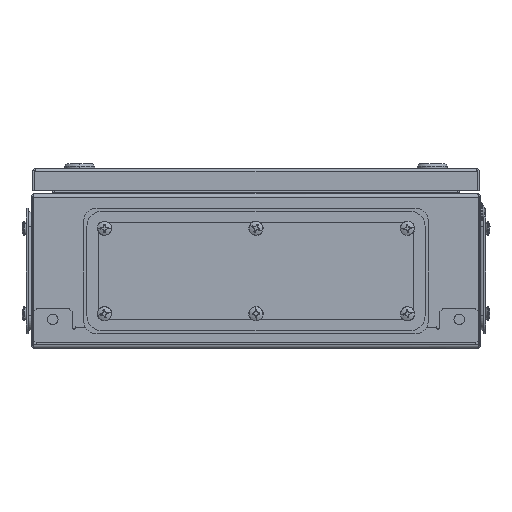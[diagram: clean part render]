
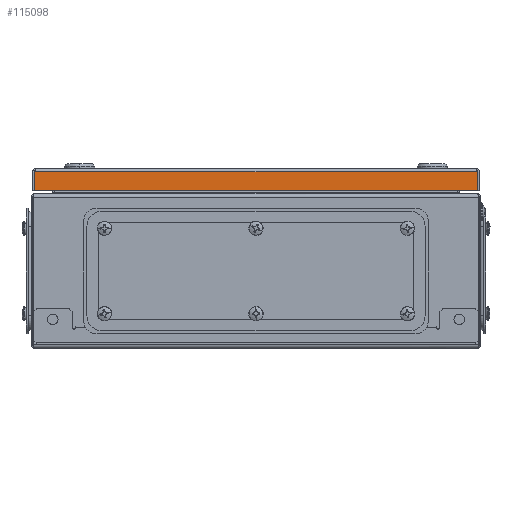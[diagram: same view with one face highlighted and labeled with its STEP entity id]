
A CAD part, left-side view. The second image highlights one B-rep face of the part: STEP entity #115098.
In plain terms, the highlighted planar face has unit normal (-1, 0, 0).
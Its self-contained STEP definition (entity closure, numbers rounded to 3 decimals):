
#1005 = ORIENTED_EDGE ( 'NONE', *, *, #26388, .T. ) ;
#4152 = CIRCLE ( 'NONE', #55912, 0.5 ) ;
#4189 = CARTESIAN_POINT ( 'NONE',  ( -149., -147.659, 105.5 ) ) ;
#10565 = AXIS2_PLACEMENT_3D ( 'NONE', #125641, #114102, #92500 ) ;
#13580 = DIRECTION ( 'NONE',  ( 0., 0., 1. ) ) ;
#14978 = DIRECTION ( 'NONE',  ( 0., 0., 1. ) ) ;
#17529 = VERTEX_POINT ( 'NONE', #57368 ) ;
#20606 = DIRECTION ( 'NONE',  ( -1., 0., 0. ) ) ;
#22097 = DIRECTION ( 'NONE',  ( 0., 0., 1. ) ) ;
#23289 = LINE ( 'NONE', #143315, #50126 ) ;
#26388 = EDGE_CURVE ( 'NONE', #105298, #103895, #65844, .T. ) ;
#31576 = PLANE ( 'NONE',  #10565 ) ;
#38104 = LINE ( 'NONE', #120638, #126197 ) ;
#38670 = EDGE_CURVE ( 'NONE', #17529, #95988, #38104, .T. ) ;
#44101 = CARTESIAN_POINT ( 'NONE',  ( -149., -147.159, 105.5 ) ) ;
#45402 = FACE_OUTER_BOUND ( 'NONE', #116367, .T. ) ;
#47474 = LINE ( 'NONE', #119213, #120043 ) ;
#50126 = VECTOR ( 'NONE', #93545, 1000. ) ;
#55912 = AXIS2_PLACEMENT_3D ( 'NONE', #68441, #20606, #22097 ) ;
#57254 = DIRECTION ( 'NONE',  ( 0., 0., 1. ) ) ;
#57368 = CARTESIAN_POINT ( 'NONE',  ( -149., 147.659, 105.5 ) ) ;
#59443 = EDGE_CURVE ( 'NONE', #105298, #141226, #139418, .T. ) ;
#65844 = CIRCLE ( 'NONE', #152005, 0.5 ) ;
#68441 = CARTESIAN_POINT ( 'NONE',  ( -149., 147.159, 105.5 ) ) ;
#73334 = CARTESIAN_POINT ( 'NONE',  ( -149., 147.659, 117.6 ) ) ;
#74166 = EDGE_CURVE ( 'NONE', #103895, #80622, #47474, .T. ) ;
#75152 = ORIENTED_EDGE ( 'NONE', *, *, #74166, .T. ) ;
#78698 = CARTESIAN_POINT ( 'NONE',  ( -149., -147.159, 105. ) ) ;
#80622 = VERTEX_POINT ( 'NONE', #145753 ) ;
#81647 = DIRECTION ( 'NONE',  ( 0., 1., 0. ) ) ;
#83283 = ORIENTED_EDGE ( 'NONE', *, *, #59443, .F. ) ;
#84352 = EDGE_CURVE ( 'NONE', #80622, #95988, #23289, .T. ) ;
#91200 = DIRECTION ( 'NONE',  ( -1., 0., 0. ) ) ;
#92500 = DIRECTION ( 'NONE',  ( 0., 0., 1. ) ) ;
#93545 = DIRECTION ( 'NONE',  ( 0., 1., 0. ) ) ;
#95988 = VERTEX_POINT ( 'NONE', #73334 ) ;
#103895 = VERTEX_POINT ( 'NONE', #4189 ) ;
#105298 = VERTEX_POINT ( 'NONE', #78698 ) ;
#114102 = DIRECTION ( 'NONE',  ( -1., 0., 0. ) ) ;
#115098 = ADVANCED_FACE ( 'NONE', ( #45402 ), #31576, .T. ) ;
#115623 = CARTESIAN_POINT ( 'NONE',  ( -149., 149., 105. ) ) ;
#116367 = EDGE_LOOP ( 'NONE', ( #83283, #1005, #75152, #123702, #151980, #137641 ) ) ;
#119213 = CARTESIAN_POINT ( 'NONE',  ( -149., -147.659, 120. ) ) ;
#120043 = VECTOR ( 'NONE', #13580, 1000. ) ;
#120638 = CARTESIAN_POINT ( 'NONE',  ( -149., 147.659, 118.8 ) ) ;
#120705 = VECTOR ( 'NONE', #81647, 1000. ) ;
#123702 = ORIENTED_EDGE ( 'NONE', *, *, #84352, .T. ) ;
#123913 = CARTESIAN_POINT ( 'NONE',  ( -149., 147.159, 105. ) ) ;
#125641 = CARTESIAN_POINT ( 'NONE',  ( -149., 0., 120. ) ) ;
#126197 = VECTOR ( 'NONE', #14978, 1000. ) ;
#129225 = EDGE_CURVE ( 'NONE', #17529, #141226, #4152, .T. ) ;
#137641 = ORIENTED_EDGE ( 'NONE', *, *, #129225, .T. ) ;
#139418 = LINE ( 'NONE', #115623, #120705 ) ;
#141226 = VERTEX_POINT ( 'NONE', #123913 ) ;
#143315 = CARTESIAN_POINT ( 'NONE',  ( -149., 0., 117.6 ) ) ;
#145753 = CARTESIAN_POINT ( 'NONE',  ( -149., -147.659, 117.6 ) ) ;
#151980 = ORIENTED_EDGE ( 'NONE', *, *, #38670, .F. ) ;
#152005 = AXIS2_PLACEMENT_3D ( 'NONE', #44101, #91200, #57254 ) ;
